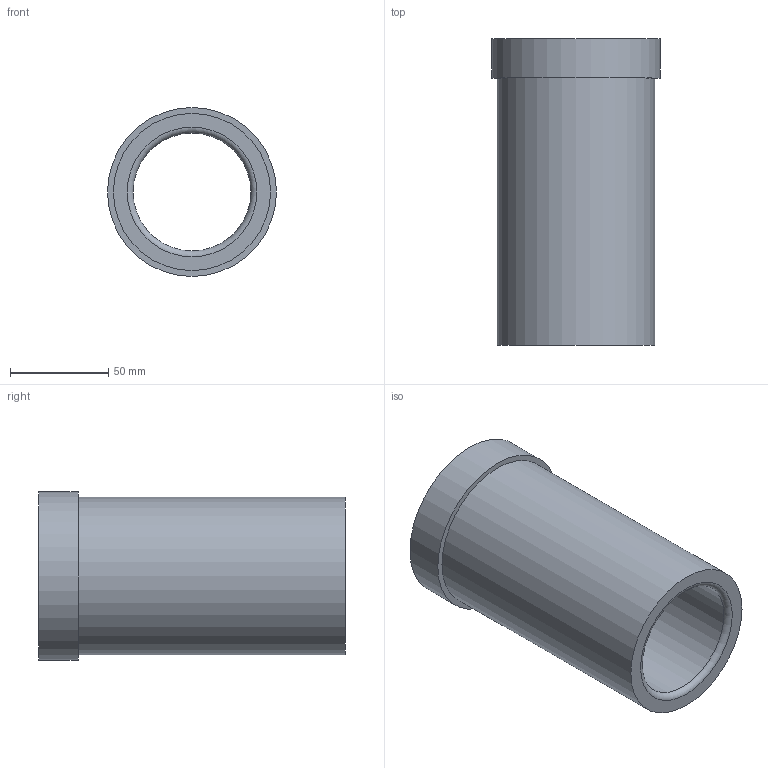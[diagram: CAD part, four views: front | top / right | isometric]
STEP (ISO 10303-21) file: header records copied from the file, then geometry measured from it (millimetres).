
FILE_DESCRIPTION(/* description */ ('STEP AP214'),/* implementation_level */ '2;1');
FILE_NAME(/* name */ '03_12_17872',/* time_stamp */ '2023-06-15T11:35:50+02:00',/* author */ ('License CC BY-ND 4.0'),/* organization */ ('CADENAS'),/* preprocessor_version */ 'ST-DEVELOPER v19.3',/* originating_system */ 'PARTsolutions',/* authorisation */ ' ');
FILE_SCHEMA (('AUTOMOTIVE_DESIGN {1 0 10303 214 3 1 1}'));
Length unit declared in the file: millimetre
Products named in the file (1): VA_Bushing_17872
Bounding box: 86 x 156 x 86 mm (x, y, z)
Volume: 356185.9 mm3; surface area: 74531.1 mm2
Topology: 1 solids, 1 shells, 10 faces, 16 edges, 10 vertices
Faces by surface type: cylinder 4, plane 4, torus 2
Full cylindrical faces by diameter (mm): 60 x1, 60.6 x1, 80 x1, 86 x1
Entity records: 302 total; most frequent: DIRECTION 42, CARTESIAN_POINT 31, AXIS2_PLACEMENT_3D 21, ORIENTED_EDGE 20, EDGE_LOOP 20, FACE_BOUND 20, EDGE_CURVE 10, VERTEX_POINT 10
